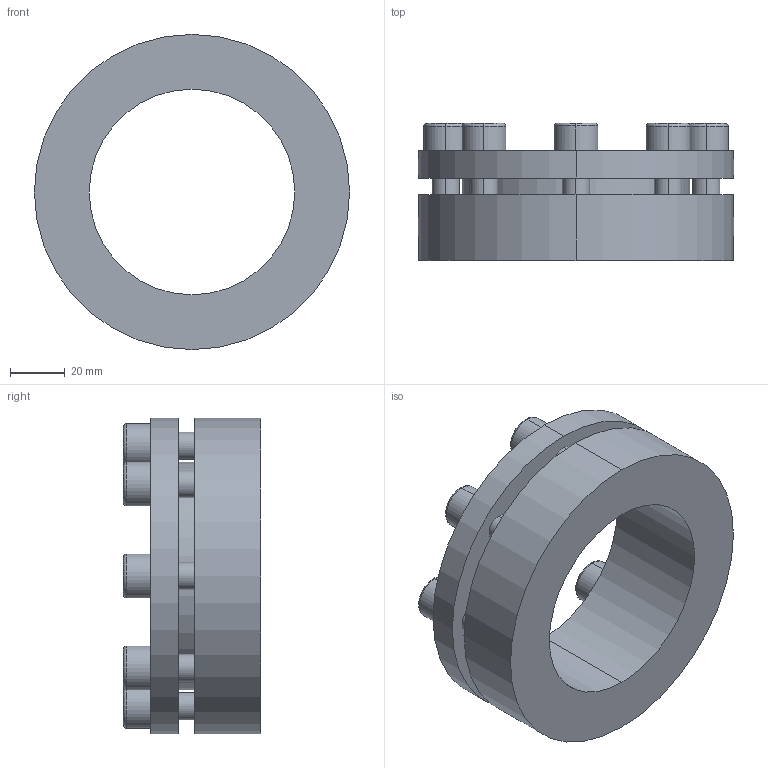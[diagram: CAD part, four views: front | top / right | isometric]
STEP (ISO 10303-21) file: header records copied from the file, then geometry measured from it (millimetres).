
FILE_DESCRIPTION (( 'STEP AP203' ), '1' );
FILE_NAME ('PL-H3 75-115.STEP', '2021-10-23T01:09:02', ( '' ), ( '' ), 'SwSTEP 2.0', 'SolidWorks 2018', '' );
FILE_SCHEMA (( 'CONFIG_CONTROL_DESIGN' ));
Length unit declared in the file: millimetre
Products named in the file (1): PL-H3 75-115
Bounding box: 115 x 50 x 115 mm (x, y, z)
Volume: 226457.3 mm3; surface area: 50368.5 mm2
Topology: 1 solids, 1 shells, 124 faces, 296 edges, 192 vertices
Faces by surface type: plane 68, cylinder 40, torus 16
Entity records: 3717 total; most frequent: DIRECTION 658, CARTESIAN_POINT 613, ORIENTED_EDGE 592, EDGE_CURVE 296, AXIS2_PLACEMENT_3D 237, VERTEX_POINT 192, LINE 184, VECTOR 184
